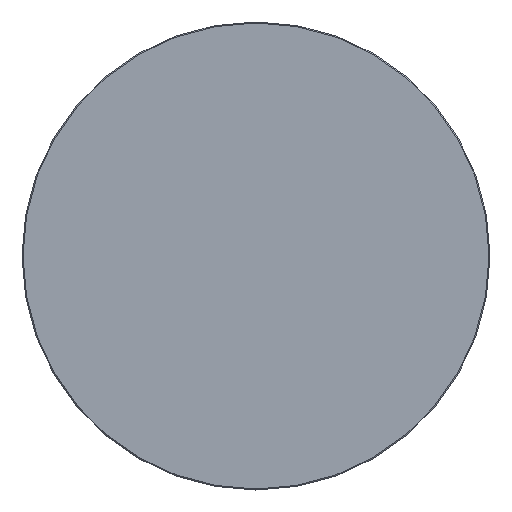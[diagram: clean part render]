
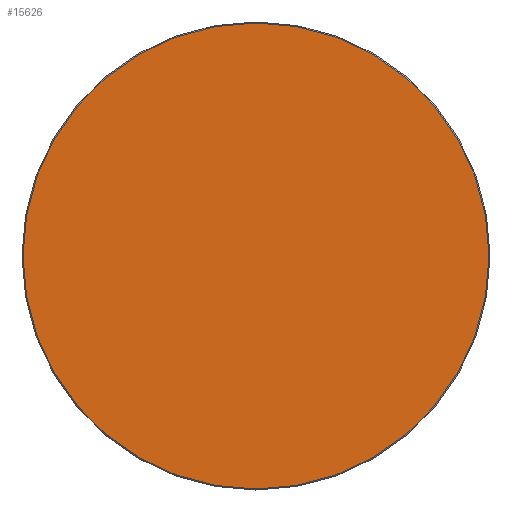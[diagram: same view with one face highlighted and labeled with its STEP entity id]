
A CAD part, top view. The second image highlights one B-rep face of the part: STEP entity #15626.
In plain terms, the highlighted planar face has unit normal (0, 0, 1).
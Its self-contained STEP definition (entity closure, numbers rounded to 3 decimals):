
#15551=CARTESIAN_POINT('',(0.,0.,20.));
#15552=DIRECTION('',(1.,0.,0.));
#15553=DIRECTION('',(0.,0.,1.));
#15554=AXIS2_PLACEMENT_3D('',#15551,#15553,#15552);
#15555=PLANE('',#15554);
#15556=CARTESIAN_POINT('',(-0.5,-348.5,20.));
#15557=VERTEX_POINT('',#15556);
#15558=CARTESIAN_POINT('',(0.5,-348.5,20.));
#15559=VERTEX_POINT('',#15558);
#15560=CARTESIAN_POINT('',(-0.5,-348.5,20.));
#15561=DIRECTION('',(1.,0.,0.));
#15562=VECTOR('',#15561,1.);
#15563=LINE('',#15560,#15562);
#15564=EDGE_CURVE('',#15557,#15559,#15563,.T.);
#15565=ORIENTED_EDGE('E105',*,*,#15564,.T.);
#15566=CARTESIAN_POINT('',(348.5,-0.5,20.));
#15567=VERTEX_POINT('',#15566);
#15568=CARTESIAN_POINT('',(0.5,-0.5,20.));
#15569=DIRECTION('',(0.,-1.,0.));
#15570=DIRECTION('',(0.,-0.,1.));
#15571=AXIS2_PLACEMENT_3D('',#15568,#15570,#15569);
#15572=CIRCLE('',#15571,348.);
#15573=EDGE_CURVE('',#15559,#15567,#15572,.T.);
#15574=ORIENTED_EDGE('E107',*,*,#15573,.T.);
#15575=CARTESIAN_POINT('',(348.5,0.5,20.));
#15576=VERTEX_POINT('',#15575);
#15577=CARTESIAN_POINT('',(348.5,-0.5,20.));
#15578=DIRECTION('',(0.,1.,0.));
#15579=VECTOR('',#15578,1.);
#15580=LINE('',#15577,#15579);
#15581=EDGE_CURVE('',#15567,#15576,#15580,.T.);
#15582=ORIENTED_EDGE('E109',*,*,#15581,.T.);
#15583=CARTESIAN_POINT('',(0.5,348.5,20.));
#15584=VERTEX_POINT('',#15583);
#15585=CARTESIAN_POINT('',(0.5,0.5,20.));
#15586=DIRECTION('',(1.,0.,0.));
#15587=DIRECTION('',(0.,0.,1.));
#15588=AXIS2_PLACEMENT_3D('',#15585,#15587,#15586);
#15589=CIRCLE('',#15588,348.);
#15590=EDGE_CURVE('',#15576,#15584,#15589,.T.);
#15591=ORIENTED_EDGE('E111',*,*,#15590,.T.);
#15592=CARTESIAN_POINT('',(-0.5,348.5,20.));
#15593=VERTEX_POINT('',#15592);
#15594=CARTESIAN_POINT('',(0.5,348.5,20.));
#15595=DIRECTION('',(-1.,0.,0.));
#15596=VECTOR('',#15595,1.);
#15597=LINE('',#15594,#15596);
#15598=EDGE_CURVE('',#15584,#15593,#15597,.T.);
#15599=ORIENTED_EDGE('E113',*,*,#15598,.T.);
#15600=CARTESIAN_POINT('',(-348.5,0.5,20.));
#15601=VERTEX_POINT('',#15600);
#15602=CARTESIAN_POINT('',(-0.5,0.5,20.));
#15603=DIRECTION('',(0.,1.,0.));
#15604=DIRECTION('',(0.,0.,1.));
#15605=AXIS2_PLACEMENT_3D('',#15602,#15604,#15603);
#15606=CIRCLE('',#15605,348.);
#15607=EDGE_CURVE('',#15593,#15601,#15606,.T.);
#15608=ORIENTED_EDGE('E115',*,*,#15607,.T.);
#15609=CARTESIAN_POINT('',(-348.5,-0.5,20.));
#15610=VERTEX_POINT('',#15609);
#15611=CARTESIAN_POINT('',(-348.5,0.5,20.));
#15612=DIRECTION('',(0.,-1.,0.));
#15613=VECTOR('',#15612,1.);
#15614=LINE('',#15611,#15613);
#15615=EDGE_CURVE('',#15601,#15610,#15614,.T.);
#15616=ORIENTED_EDGE('E117',*,*,#15615,.T.);
#15617=CARTESIAN_POINT('',(-0.5,-0.5,20.));
#15618=DIRECTION('',(-1.,0.,0.));
#15619=DIRECTION('',(0.,0.,1.));
#15620=AXIS2_PLACEMENT_3D('',#15617,#15619,#15618);
#15621=CIRCLE('',#15620,348.);
#15622=EDGE_CURVE('',#15610,#15557,#15621,.T.);
#15623=ORIENTED_EDGE('E119',*,*,#15622,.T.);
#15624=EDGE_LOOP('',(#15565,#15574,#15582,#15591,#15599,#15608,#15616,#15623));
#15625=FACE_OUTER_BOUND('',#15624,.T.);
#15626=ADVANCED_FACE('F2',(#15625),#15555,.T.);
